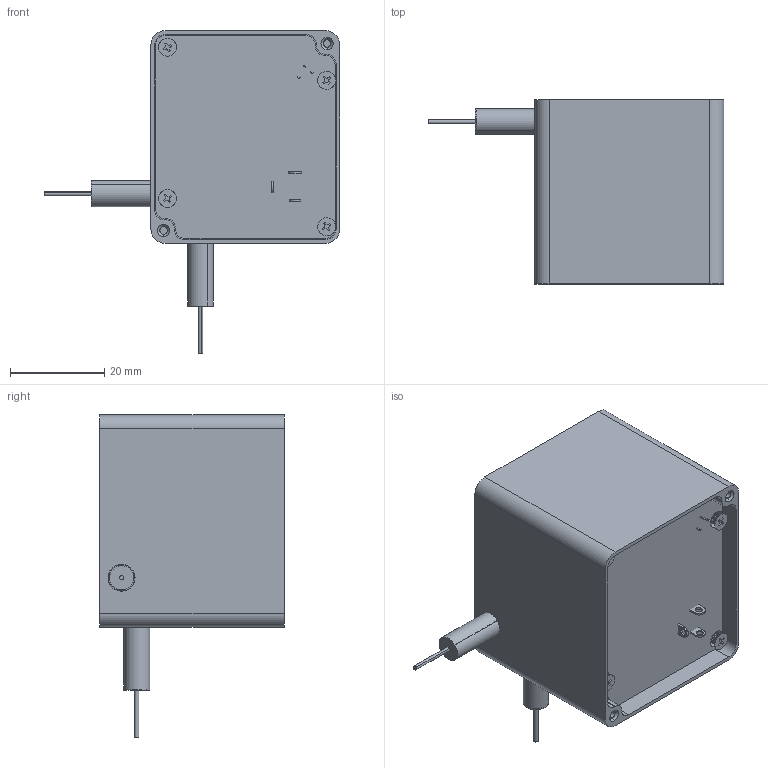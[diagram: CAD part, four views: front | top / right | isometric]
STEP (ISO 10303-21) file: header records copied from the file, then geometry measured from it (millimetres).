
FILE_DESCRIPTION (( 'STEP AP214' ), '1' );
FILE_NAME ('Broadband Motorized Tunable Fiber Optic Grating Filter.STEP', '2025-01-17T15:25:21', ( '' ), ( '' ), 'SwSTEP 2.0', 'SolidWorks 2022', '' );
FILE_SCHEMA (( 'AUTOMOTIVE_DESIGN' ));
Length unit declared in the file: millimetre
Products named in the file (17): 6941xx301002_Back.step___; endcap; Broadband Motorized Tunable Fiber Optic Grating Filter; 6941xx301002.step___; 92010A001_Passivated 18-8 Stainless Steel Phillips Flat Head Screw.step; 10103594.step___; 6941xx301002_PinLame.step___; 694106301002.step___; lid 1; glass^Assem3; 694106301002_PinContact.step___; 10103594 v2.step___; 6941xx301002_PinContact2.step___; RPI-121-FOOTPRINT.step___; lid 2; rotating parts_motorized2___; 6941xx301002_PinBis.step___
Assembly tree (24 placements, depth 3):
  Broadband Motorized Tunable Fiber Optic Grating Filter
    lid 1
    lid 2
    92010A001_Passivated 18-8 Stainless Steel Phillips Flat Head Screw.step  x8
    endcap  x2
    RPI-121-FOOTPRINT.step___
    694106301002.step___
      6941xx301002.step___
      694106301002_PinContact.step___
      6941xx301002_Back.step___
      6941xx301002_PinContact2.step___
      6941xx301002_PinLame.step___
      6941xx301002_PinBis.step___
    10103594.step___
      10103594 v2.step___
    rotating parts_motorized2___
    glass^Assem3
Bounding box: 62.6 x 39 x 68.28 mm (x, y, z)
Volume: 22864 mm3; surface area: 25162.7 mm2
Topology: 21 solids, 61 shells, 1871 faces, 5148 edges, 3385 vertices
Faces by surface type: plane 1133, cylinder 592, cone 76, bspline 54, torus 16
Entity records: 64316 total; most frequent: CARTESIAN_POINT 11077, ORIENTED_EDGE 8220, DIRECTION 7883, EDGE_CURVE 4158, LINE 3089, VECTOR 3089, VERTEX_POINT 2729, AXIS2_PLACEMENT_3D 2397
